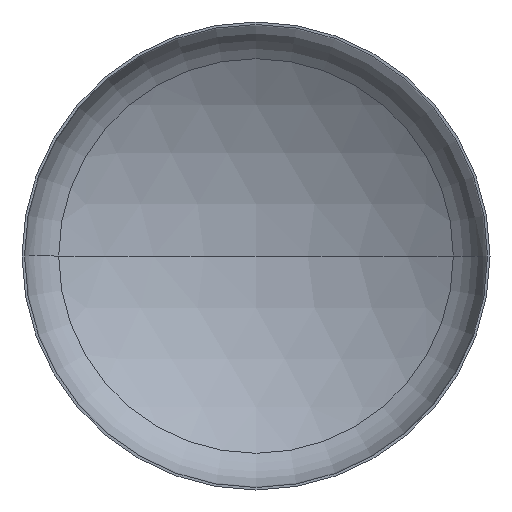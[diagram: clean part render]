
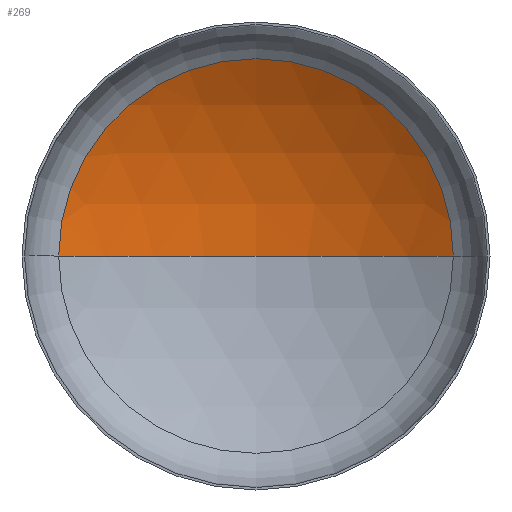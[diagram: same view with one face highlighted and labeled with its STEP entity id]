
A CAD part, front view. The second image highlights one B-rep face of the part: STEP entity #269.
In plain terms, the highlighted spherical face has radius 5600 mm.
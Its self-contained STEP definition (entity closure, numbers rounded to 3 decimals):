
#1 = VERTEX_POINT ( 'NONE', #274 ) ;
#25 = DIRECTION ( 'NONE',  ( -1., 0., 0. ) ) ;
#29 = VERTEX_POINT ( 'NONE', #228 ) ;
#55 = ORIENTED_EDGE ( 'NONE', *, *, #346, .T. ) ;
#60 = ORIENTED_EDGE ( 'NONE', *, *, #109, .T. ) ;
#65 = VERTEX_POINT ( 'NONE', #222 ) ;
#72 = EDGE_LOOP ( 'NONE', ( #88, #60, #55 ) ) ;
#88 = ORIENTED_EDGE ( 'NONE', *, *, #131, .F. ) ;
#105 = AXIS2_PLACEMENT_3D ( 'NONE', #333, #331, #384 ) ;
#109 = EDGE_CURVE ( 'NONE', #65, #1, #291, .T. ) ;
#115 = CARTESIAN_POINT ( 'NONE',  ( 0., 1037.86, 0. ) ) ;
#131 = EDGE_CURVE ( 'NONE', #65, #29, #359, .T. ) ;
#134 = DIRECTION ( 'NONE',  ( 1., 0., 0. ) ) ;
#140 = CARTESIAN_POINT ( 'NONE',  ( 0., -3721.416, 0. ) ) ;
#175 = CARTESIAN_POINT ( 'NONE',  ( 0., -3721.416, 0. ) ) ;
#222 = CARTESIAN_POINT ( 'NONE',  ( 0., 1878.584, 0. ) ) ;
#228 = CARTESIAN_POINT ( 'NONE',  ( -2951.15, 1037.86, 0. ) ) ;
#236 = DIRECTION ( 'NONE',  ( 0., 0., -1. ) ) ;
#269 = ADVANCED_FACE ( 'NONE', ( #334 ), #326, .F. ) ;
#274 = CARTESIAN_POINT ( 'NONE',  ( 2951.15, 1037.86, 0. ) ) ;
#291 = CIRCLE ( 'NONE', #406, 5600. ) ;
#307 = CIRCLE ( 'NONE', #401, 2951.15 ) ;
#314 = DIRECTION ( 'NONE',  ( 0., -1., 0. ) ) ;
#326 = SPHERICAL_SURFACE ( 'NONE', #332, 5600. ) ;
#327 = DIRECTION ( 'NONE',  ( -1., 0., 0. ) ) ;
#330 = DIRECTION ( 'NONE',  ( 0., 0., -1. ) ) ;
#331 = DIRECTION ( 'NONE',  ( 0., 0., 1. ) ) ;
#332 = AXIS2_PLACEMENT_3D ( 'NONE', #140, #236, #25 ) ;
#333 = CARTESIAN_POINT ( 'NONE',  ( 0., -3721.416, 0. ) ) ;
#334 = FACE_OUTER_BOUND ( 'NONE', #72, .T. ) ;
#346 = EDGE_CURVE ( 'NONE', #1, #29, #307, .T. ) ;
#359 = CIRCLE ( 'NONE', #105, 5600. ) ;
#384 = DIRECTION ( 'NONE',  ( 1., 0., 0. ) ) ;
#401 = AXIS2_PLACEMENT_3D ( 'NONE', #115, #314, #134 ) ;
#406 = AXIS2_PLACEMENT_3D ( 'NONE', #175, #330, #327 ) ;
